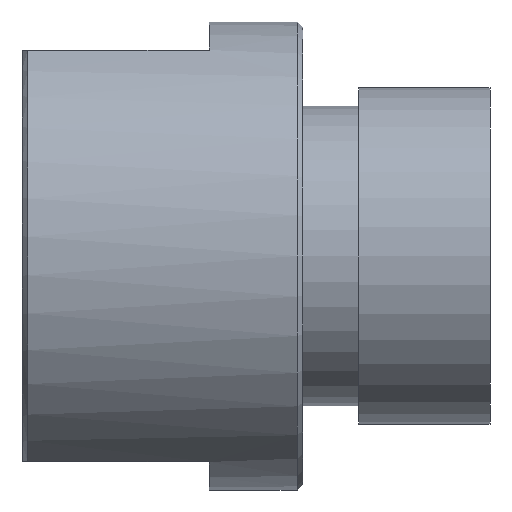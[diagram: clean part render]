
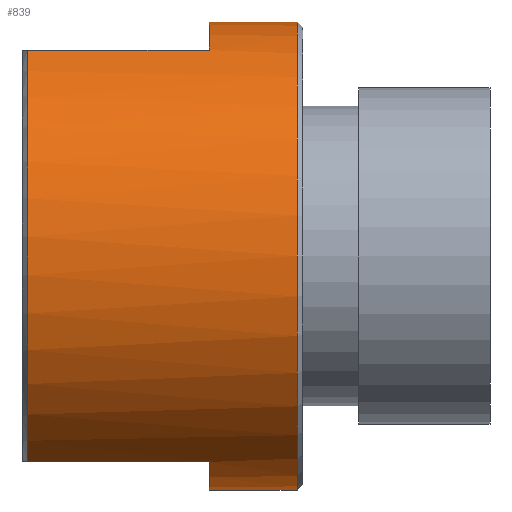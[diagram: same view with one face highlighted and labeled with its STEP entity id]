
A CAD part, left-side view. The second image highlights one B-rep face of the part: STEP entity #839.
In plain terms, the highlighted cylindrical face has radius 12.5 mm (diameter 25 mm), a partial arc.
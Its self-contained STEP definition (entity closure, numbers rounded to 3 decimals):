
#23 = VECTOR ( 'NONE', #101, 1000. ) ;
#35 = CARTESIAN_POINT ( 'NONE',  ( -5.937, 15., -11. ) ) ;
#59 = CARTESIAN_POINT ( 'NONE',  ( 0., 5., 12.5 ) ) ;
#62 = CARTESIAN_POINT ( 'NONE',  ( 0., 5., 0. ) ) ;
#97 = CARTESIAN_POINT ( 'NONE',  ( 0., 15., -12.5 ) ) ;
#101 = DIRECTION ( 'NONE',  ( 0., -1., 0. ) ) ;
#126 = DIRECTION ( 'NONE',  ( 0., 0., 1. ) ) ;
#128 = VERTEX_POINT ( 'NONE', #179 ) ;
#135 = VECTOR ( 'NONE', #408, 1000. ) ;
#139 = CARTESIAN_POINT ( 'NONE',  ( 0., 0.3, -12.5 ) ) ;
#148 = ORIENTED_EDGE ( 'NONE', *, *, #230, .T. ) ;
#176 = CARTESIAN_POINT ( 'NONE',  ( -5.937, 14.7, 11. ) ) ;
#179 = CARTESIAN_POINT ( 'NONE',  ( 0., 5., -12.5 ) ) ;
#197 = VERTEX_POINT ( 'NONE', #527 ) ;
#198 = CIRCLE ( 'NONE', #418, 12.5 ) ;
#201 = CIRCLE ( 'NONE', #271, 12.5 ) ;
#206 = CARTESIAN_POINT ( 'NONE',  ( 0., 15., 12.5 ) ) ;
#207 = LINE ( 'NONE', #35, #686 ) ;
#210 = CARTESIAN_POINT ( 'NONE',  ( 0., 15., 0. ) ) ;
#219 = CARTESIAN_POINT ( 'NONE',  ( 0., 5., 0. ) ) ;
#226 = CIRCLE ( 'NONE', #324, 12.5 ) ;
#230 = EDGE_CURVE ( 'NONE', #445, #197, #226, .T. ) ;
#256 = VERTEX_POINT ( 'NONE', #860 ) ;
#266 = ORIENTED_EDGE ( 'NONE', *, *, #409, .F. ) ;
#271 = AXIS2_PLACEMENT_3D ( 'NONE', #219, #679, #287 ) ;
#284 = CYLINDRICAL_SURFACE ( 'NONE', #576, 12.5 ) ;
#287 = DIRECTION ( 'NONE',  ( 0., 0., -1. ) ) ;
#291 = ORIENTED_EDGE ( 'NONE', *, *, #602, .T. ) ;
#304 = EDGE_CURVE ( 'NONE', #586, #424, #198, .T. ) ;
#309 = DIRECTION ( 'NONE',  ( 0., 1., 0. ) ) ;
#312 = LINE ( 'NONE', #810, #135 ) ;
#315 = ORIENTED_EDGE ( 'NONE', *, *, #304, .T. ) ;
#324 = AXIS2_PLACEMENT_3D ( 'NONE', #655, #795, #126 ) ;
#392 = LINE ( 'NONE', #97, #23 ) ;
#408 = DIRECTION ( 'NONE',  ( 0., -1., 0. ) ) ;
#409 = EDGE_CURVE ( 'NONE', #128, #256, #473, .T. ) ;
#418 = AXIS2_PLACEMENT_3D ( 'NONE', #664, #739, #536 ) ;
#424 = VERTEX_POINT ( 'NONE', #599 ) ;
#445 = VERTEX_POINT ( 'NONE', #139 ) ;
#447 = VERTEX_POINT ( 'NONE', #59 ) ;
#473 = CIRCLE ( 'NONE', #520, 12.5 ) ;
#477 = DIRECTION ( 'NONE',  ( 0., -1., 0. ) ) ;
#486 = ORIENTED_EDGE ( 'NONE', *, *, #738, .F. ) ;
#520 = AXIS2_PLACEMENT_3D ( 'NONE', #62, #611, #672 ) ;
#527 = CARTESIAN_POINT ( 'NONE',  ( 0., 0.3, 12.5 ) ) ;
#528 = VECTOR ( 'NONE', #477, 1000. ) ;
#536 = DIRECTION ( 'NONE',  ( 0., 0., 1. ) ) ;
#537 = CARTESIAN_POINT ( 'NONE',  ( -5.937, 5., 11. ) ) ;
#538 = EDGE_CURVE ( 'NONE', #447, #807, #201, .T. ) ;
#576 = AXIS2_PLACEMENT_3D ( 'NONE', #210, #868, #598 ) ;
#586 = VERTEX_POINT ( 'NONE', #176 ) ;
#598 = DIRECTION ( 'NONE',  ( 0., 0., -1. ) ) ;
#599 = CARTESIAN_POINT ( 'NONE',  ( -5.937, 14.7, -11. ) ) ;
#602 = EDGE_CURVE ( 'NONE', #128, #445, #392, .T. ) ;
#611 = DIRECTION ( 'NONE',  ( 0., 1., 0. ) ) ;
#646 = LINE ( 'NONE', #206, #528 ) ;
#655 = CARTESIAN_POINT ( 'NONE',  ( 0., 0.3, 0. ) ) ;
#664 = CARTESIAN_POINT ( 'NONE',  ( 0., 14.7, 0. ) ) ;
#672 = DIRECTION ( 'NONE',  ( -1., 0., 0. ) ) ;
#679 = DIRECTION ( 'NONE',  ( 0., -1., 0. ) ) ;
#686 = VECTOR ( 'NONE', #309, 1000. ) ;
#695 = EDGE_CURVE ( 'NONE', #256, #424, #207, .T. ) ;
#730 = EDGE_LOOP ( 'NONE', ( #486, #759, #821, #315, #837, #266, #291, #148 ) ) ;
#738 = EDGE_CURVE ( 'NONE', #447, #197, #646, .T. ) ;
#739 = DIRECTION ( 'NONE',  ( 0., -1., 0. ) ) ;
#759 = ORIENTED_EDGE ( 'NONE', *, *, #538, .T. ) ;
#795 = DIRECTION ( 'NONE',  ( 0., 1., 0. ) ) ;
#797 = EDGE_CURVE ( 'NONE', #586, #807, #312, .T. ) ;
#803 = FACE_OUTER_BOUND ( 'NONE', #730, .T. ) ;
#807 = VERTEX_POINT ( 'NONE', #537 ) ;
#810 = CARTESIAN_POINT ( 'NONE',  ( -5.937, 15., 11. ) ) ;
#821 = ORIENTED_EDGE ( 'NONE', *, *, #797, .F. ) ;
#837 = ORIENTED_EDGE ( 'NONE', *, *, #695, .F. ) ;
#839 = ADVANCED_FACE ( 'NONE', ( #803 ), #284, .T. ) ;
#860 = CARTESIAN_POINT ( 'NONE',  ( -5.937, 5., -11. ) ) ;
#868 = DIRECTION ( 'NONE',  ( 0., -1., 0. ) ) ;
